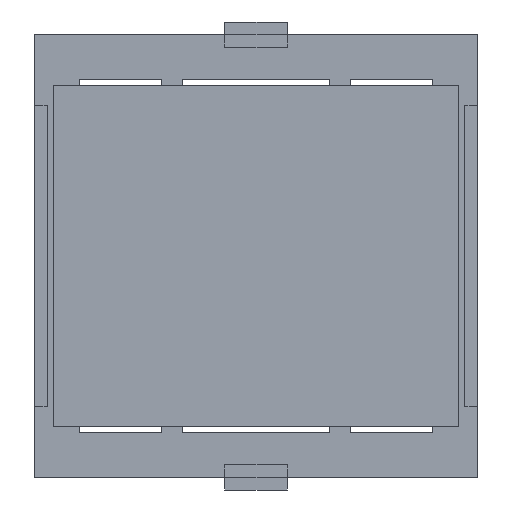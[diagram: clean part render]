
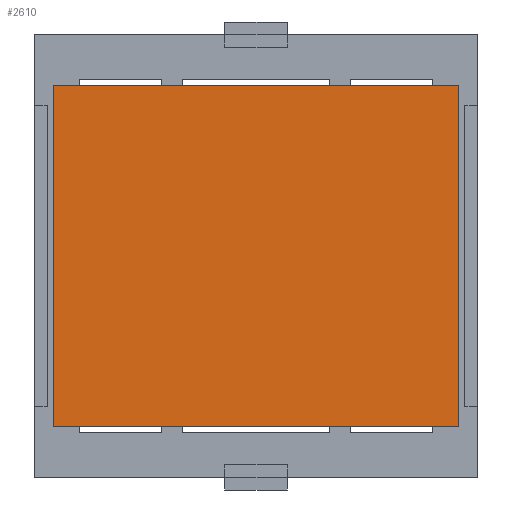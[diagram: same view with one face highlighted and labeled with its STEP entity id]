
A CAD part, front view. The second image highlights one B-rep face of the part: STEP entity #2610.
In plain terms, the highlighted planar face has unit normal (0, -1, 0).
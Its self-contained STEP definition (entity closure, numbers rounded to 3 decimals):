
#204 = FACE_OUTER_BOUND ( 'NONE', #5364, .T. ) ;
#275 = LINE ( 'NONE', #1166, #4879 ) ;
#512 = ORIENTED_EDGE ( 'NONE', *, *, #1276, .F. ) ;
#547 = VECTOR ( 'NONE', #5030, 1000. ) ;
#565 = CARTESIAN_POINT ( 'NONE',  ( -16.129, -0.127, 13.589 ) ) ;
#581 = CARTESIAN_POINT ( 'NONE',  ( 16.129, -0.127, -13.589 ) ) ;
#878 = EDGE_CURVE ( 'NONE', #5029, #1831, #2497, .T. ) ;
#1046 = CARTESIAN_POINT ( 'NONE',  ( 16.129, -0.127, 13.589 ) ) ;
#1063 = CARTESIAN_POINT ( 'NONE',  ( -16.129, -0.127, 13.589 ) ) ;
#1166 = CARTESIAN_POINT ( 'NONE',  ( -16.129, -0.127, 13.589 ) ) ;
#1276 = EDGE_CURVE ( 'NONE', #1831, #5757, #3585, .T. ) ;
#1620 = EDGE_CURVE ( 'NONE', #3909, #5029, #275, .T. ) ;
#1783 = DIRECTION ( 'NONE',  ( 0., 0., 1. ) ) ;
#1831 = VERTEX_POINT ( 'NONE', #5996 ) ;
#1851 = AXIS2_PLACEMENT_3D ( 'NONE', #1063, #5116, #1783 ) ;
#1856 = CARTESIAN_POINT ( 'NONE',  ( -16.129, -0.127, -13.589 ) ) ;
#1889 = VECTOR ( 'NONE', #3796, 1000. ) ;
#1895 = LINE ( 'NONE', #1856, #1889 ) ;
#2020 = DIRECTION ( 'NONE',  ( 0., 0., -1. ) ) ;
#2497 = LINE ( 'NONE', #581, #2942 ) ;
#2588 = PLANE ( 'NONE',  #1851 ) ;
#2610 = ADVANCED_FACE ( 'NONE', ( #204 ), #2588, .F. ) ;
#2942 = VECTOR ( 'NONE', #2020, 1000. ) ;
#3585 = LINE ( 'NONE', #4584, #547 ) ;
#3691 = DIRECTION ( 'NONE',  ( 1., 0., 0. ) ) ;
#3796 = DIRECTION ( 'NONE',  ( 0., 0., 1. ) ) ;
#3909 = VERTEX_POINT ( 'NONE', #565 ) ;
#4029 = ORIENTED_EDGE ( 'NONE', *, *, #1620, .F. ) ;
#4145 = CARTESIAN_POINT ( 'NONE',  ( -16.129, -0.127, -13.589 ) ) ;
#4584 = CARTESIAN_POINT ( 'NONE',  ( -16.129, -0.127, -13.589 ) ) ;
#4879 = VECTOR ( 'NONE', #3691, 1000. ) ;
#5029 = VERTEX_POINT ( 'NONE', #1046 ) ;
#5030 = DIRECTION ( 'NONE',  ( -1., 0., 0. ) ) ;
#5116 = DIRECTION ( 'NONE',  ( 0., 1., 0. ) ) ;
#5291 = ORIENTED_EDGE ( 'NONE', *, *, #5616, .F. ) ;
#5364 = EDGE_LOOP ( 'NONE', ( #5291, #512, #5595, #4029 ) ) ;
#5595 = ORIENTED_EDGE ( 'NONE', *, *, #878, .F. ) ;
#5616 = EDGE_CURVE ( 'NONE', #5757, #3909, #1895, .T. ) ;
#5757 = VERTEX_POINT ( 'NONE', #4145 ) ;
#5996 = CARTESIAN_POINT ( 'NONE',  ( 16.129, -0.127, -13.589 ) ) ;
